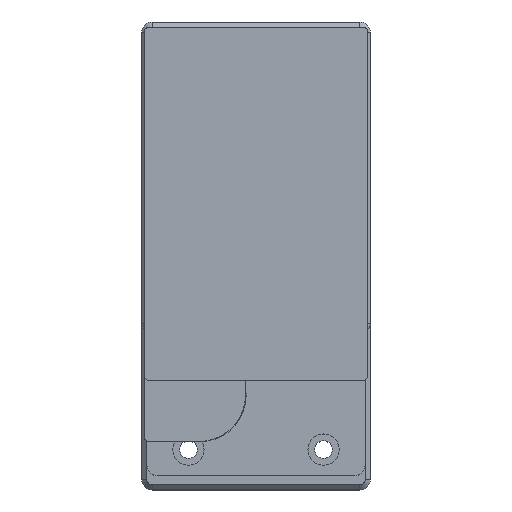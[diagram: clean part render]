
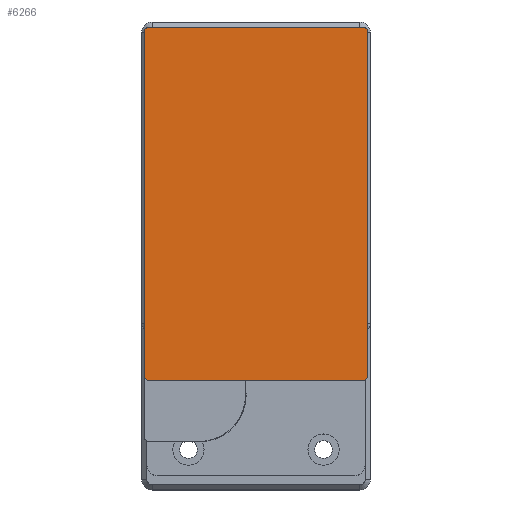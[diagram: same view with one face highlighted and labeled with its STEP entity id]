
A CAD part, top view. The second image highlights one B-rep face of the part: STEP entity #6266.
In plain terms, the highlighted planar face has unit normal (0, 0, 1).
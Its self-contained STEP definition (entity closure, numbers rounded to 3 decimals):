
#404=CIRCLE('',#6834,1.);
#405=CIRCLE('',#6837,1.);
#406=CIRCLE('',#6838,1.);
#407=CIRCLE('',#6839,1.);
#750=FACE_OUTER_BOUND('',#1157,.T.);
#1157=EDGE_LOOP('',(#5494,#5495,#5496,#5497,#5498,#5499,#5500,#5501));
#1773=LINE('',#10344,#2412);
#1776=LINE('',#10350,#2415);
#1777=LINE('',#10354,#2416);
#1778=LINE('',#10358,#2417);
#2412=VECTOR('',#8476,10.);
#2415=VECTOR('',#8481,10.);
#2416=VECTOR('',#8484,10.);
#2417=VECTOR('',#8487,10.);
#2999=VERTEX_POINT('',#10337);
#3000=VERTEX_POINT('',#10339);
#3001=VERTEX_POINT('',#10343);
#3003=VERTEX_POINT('',#10349);
#3004=VERTEX_POINT('',#10351);
#3005=VERTEX_POINT('',#10353);
#3006=VERTEX_POINT('',#10355);
#3007=VERTEX_POINT('',#10357);
#3842=EDGE_CURVE('',#2999,#3000,#404,.T.);
#3844=EDGE_CURVE('',#3001,#3000,#1773,.T.);
#3847=EDGE_CURVE('',#2999,#3003,#1776,.T.);
#3848=EDGE_CURVE('',#3004,#3003,#405,.T.);
#3849=EDGE_CURVE('',#3004,#3005,#1777,.T.);
#3850=EDGE_CURVE('',#3006,#3005,#406,.T.);
#3851=EDGE_CURVE('',#3006,#3007,#1778,.T.);
#3852=EDGE_CURVE('',#3001,#3007,#407,.T.);
#5494=ORIENTED_EDGE('',*,*,#3842,.F.);
#5495=ORIENTED_EDGE('',*,*,#3847,.T.);
#5496=ORIENTED_EDGE('',*,*,#3848,.F.);
#5497=ORIENTED_EDGE('',*,*,#3849,.T.);
#5498=ORIENTED_EDGE('',*,*,#3850,.F.);
#5499=ORIENTED_EDGE('',*,*,#3851,.T.);
#5500=ORIENTED_EDGE('',*,*,#3852,.F.);
#5501=ORIENTED_EDGE('',*,*,#3844,.T.);
#5939=PLANE('',#6836);
#6266=ADVANCED_FACE('',(#750),#5939,.T.);
#6834=AXIS2_PLACEMENT_3D('',#10340,#8471,#8472);
#6836=AXIS2_PLACEMENT_3D('',#10348,#8479,#8480);
#6837=AXIS2_PLACEMENT_3D('',#10352,#8482,#8483);
#6838=AXIS2_PLACEMENT_3D('',#10356,#8485,#8486);
#6839=AXIS2_PLACEMENT_3D('',#10359,#8488,#8489);
#8471=DIRECTION('center_axis',(0.,0.,-1.));
#8472=DIRECTION('ref_axis',(-0.707,-0.707,0.));
#8476=DIRECTION('',(0.,-1.,0.));
#8479=DIRECTION('center_axis',(0.,0.,1.));
#8480=DIRECTION('ref_axis',(0.,1.,0.));
#8481=DIRECTION('',(1.,0.,0.));
#8482=DIRECTION('center_axis',(0.,0.,-1.));
#8483=DIRECTION('ref_axis',(0.707,-0.707,0.));
#8484=DIRECTION('',(0.,1.,0.));
#8485=DIRECTION('center_axis',(0.,0.,-1.));
#8486=DIRECTION('ref_axis',(0.707,0.707,0.));
#8487=DIRECTION('',(-1.,0.,0.));
#8488=DIRECTION('center_axis',(0.,0.,-1.));
#8489=DIRECTION('ref_axis',(-0.707,0.707,0.));
#10337=CARTESIAN_POINT('',(-0.5,71.,31.));
#10339=CARTESIAN_POINT('',(-1.5,72.,31.));
#10340=CARTESIAN_POINT('Origin',(-0.5,72.,31.));
#10343=CARTESIAN_POINT('',(-1.5,138.,31.));
#10344=CARTESIAN_POINT('',(-1.5,99.875,31.));
#10348=CARTESIAN_POINT('Origin',(20.,79.75,31.));
#10349=CARTESIAN_POINT('',(40.5,71.,31.));
#10350=CARTESIAN_POINT('',(20.,71.,31.));
#10351=CARTESIAN_POINT('',(41.5,72.,31.));
#10352=CARTESIAN_POINT('Origin',(40.5,72.,31.));
#10353=CARTESIAN_POINT('',(41.5,138.,31.));
#10354=CARTESIAN_POINT('',(41.5,99.875,31.));
#10355=CARTESIAN_POINT('',(40.5,139.,31.));
#10356=CARTESIAN_POINT('Origin',(40.5,138.,31.));
#10357=CARTESIAN_POINT('',(-0.5,139.,31.));
#10358=CARTESIAN_POINT('',(20.,139.,31.));
#10359=CARTESIAN_POINT('Origin',(-0.5,138.,31.));
